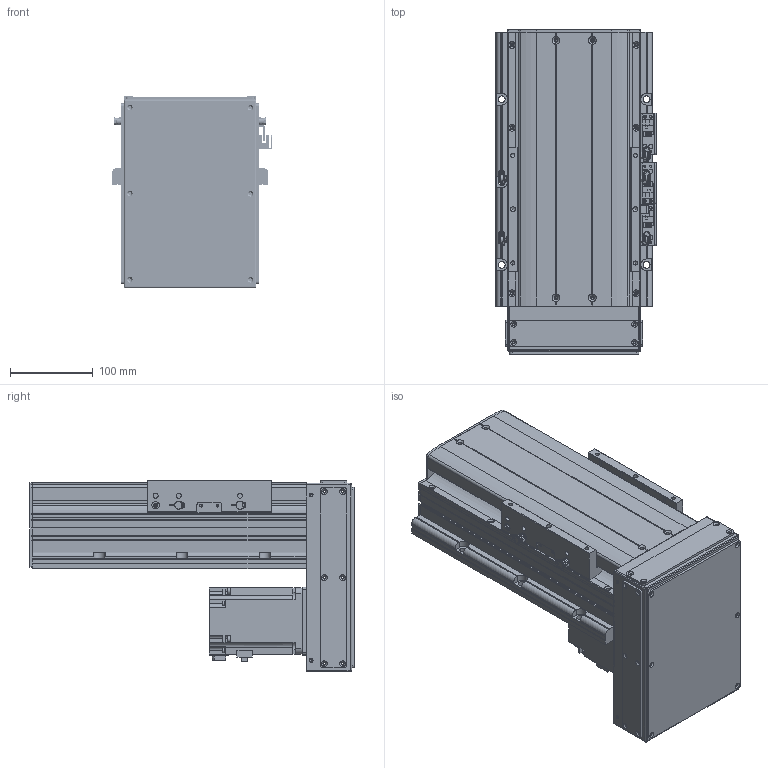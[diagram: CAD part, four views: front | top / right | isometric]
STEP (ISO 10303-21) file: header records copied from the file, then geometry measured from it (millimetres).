
FILE_DESCRIPTION(/* description */ ('MANUFACTURE','CAx-IF Rec.Pracs.---Representation and Presentation of Product Manufacturing Information (PMI)---4.0---2014-10-13'),/* implementation_level */ '2;1');
FILE_NAME(/* name */ '\\192.168.0.160\disk1\HAN SHIN Master\B-설계부문\C-표준\B-2024년\BC02-표준도면\+로봇 개선표준도면\표준 승인도 폴더 - 재작업\3D\HS Type\HS160\D-Type\HS160-D70-N-0100-R10.stp',/* time_stamp */ '2024-08-28T13:10:13+09:00',/* author */ ('user'),/* organization */ (''),/* preprocessor_version */ 'ST-DEVELOPER v18.1',/* originating_system */ 'Autodesk Inventor 2022',/* authorisation */ 'LIP');
FILE_SCHEMA (('AP242_MANAGED_MODEL_BASED_3D_ENGINEERING_MIM_LF { 1 0 10303 442 1 1 4 }'));
Products named in the file (30): HS160 D 70-N-0500-R10 - 간소화; HS160 LR BASE (400W-20Pi); 6004ZZ; 6004ZZ Outer ring; 6004ZZ Shield1; 6004ZZ Inner ring; 6004ZZ Ball; 6004ZZ Shield2; UPCOVER; HR180 FRONT BLOCK; HR180 FRONT BLOCK_1; REAR COVER; STOPPER104; HR120 SENSOR DOG; TABLE; LMKE2020 NUT; NUT HOLDER; hsr_ftht_A-M6F_grease_nipple_joint; NIPPLE CAP(신규); hg-kr73_; 750W MOTOR PLATE; 화살표; SENSOR BRK(EE-SX674A); EE_SX674A; HS160 D MOTOR PLATE; HG160DACRYLCOVER001; HG160DACRYLCOVER003; HG160 D BELT COVER; HG160ACRYLCOVER002; SIDE COVER
Assembly tree (57 placements, depth 3):
  HS160 D 70-N-0500-R10 - 간소화
    HS160 LR BASE (400W-20Pi)
    6004ZZ
      6004ZZ Outer ring
      6004ZZ Shield1
      6004ZZ Inner ring
      6004ZZ Ball  x13
      6004ZZ Shield2
    UPCOVER
    SIDE COVER  x2
    HR180 FRONT BLOCK
    HR180 FRONT BLOCK_1
    REAR COVER
    STOPPER104  x2
    HR120 SENSOR DOG
    SENSOR BRK(EE-SX674A)  x3
    EE_SX674A  x3
    TABLE
    LMKE2020 NUT
    NUT HOLDER
    hsr_ftht_A-M6F_grease_nipple_joint  x5
    NIPPLE CAP(신규)  x5
    화살표  x2
    hg-kr73_
    750W MOTOR PLATE
    HS160 D MOTOR PLATE
    HG160DACRYLCOVER001
    HG160ACRYLCOVER002  x2
    HG160DACRYLCOVER003
    HG160 D BELT COVER
Bounding box: 193.5 x 392 x 232 mm (x, y, z)
Volume: 4190717.9 mm3; surface area: 1089970 mm2
Topology: 56 solids, 56 shells, 2389 faces, 6557 edges, 4272 vertices
Faces by surface type: plane 1084, cylinder 899, cone 293, sphere 57, torus 36, bspline 20
Full cylindrical faces by diameter (mm): 2.459 x40, 3 x32, 3.2 x2, 3.242 x40, 3.4 x22, 3.5 x6, 4.134 x16, 4.2 x8, 4.5 x28, 4.917 x47, 5 x30, 5.5 x25, 5.6 x5, 5.9 x4, 6 x19, 6.5 x16, 6.6 x18, 7 x4, 7.6 x4, 8.376 x6, 9 x6, 9.5 x29, 11 x14, 19 x1, 20 x2, 25 x1, 25.7 x4, 27 x2, 29.5 x1, 30 x1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
Entity records: 67240 total; most frequent: CARTESIAN_POINT 14059, DIRECTION 10584, ORIENTED_EDGE 9530, EDGE_CURVE 4765, AXIS2_PLACEMENT_3D 3957, VERTEX_POINT 3166, LINE 2670, VECTOR 2670
